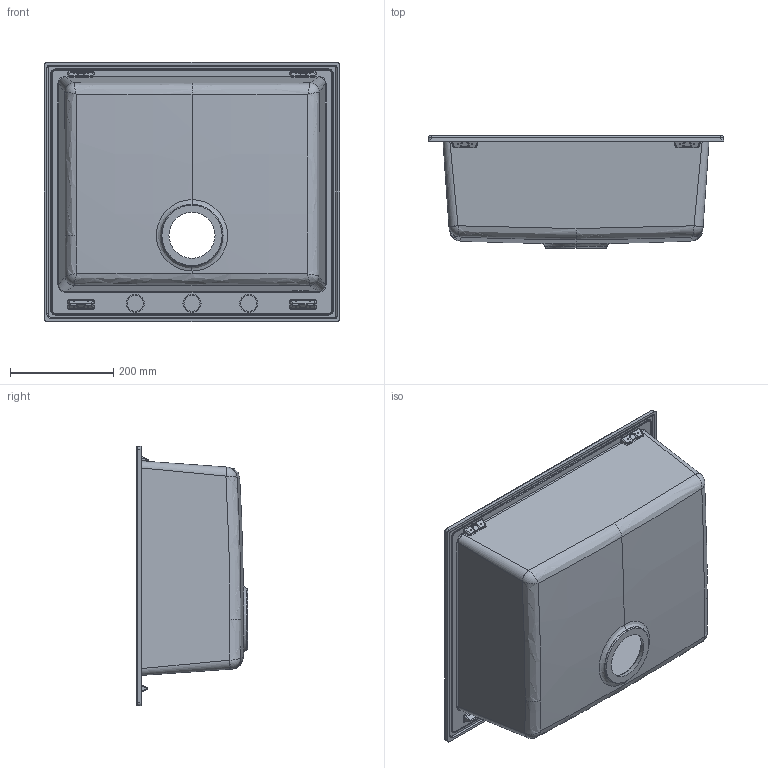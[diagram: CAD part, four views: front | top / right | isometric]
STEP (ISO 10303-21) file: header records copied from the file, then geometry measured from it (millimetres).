
FILE_DESCRIPTION (( 'STEP AP203' ), '1' );
FILE_NAME ('Quadra105.STEP', '2018-11-14T15:53:47', ( '' ), ( '' ), 'SwSTEP 2.0', 'SolidWorks 2013', '' );
FILE_SCHEMA (( 'CONFIG_CONTROL_DESIGN' ));
Products named in the file (1): Quadra105
Bounding box: 571.4 x 216.53 x 501.4 mm (x, y, z)
Volume: 4775835 mm3; surface area: 1196047.3 mm2
Topology: 1 solids, 1 shells, 409 faces, 951 edges, 544 vertices
Faces by surface type: bspline 189, cylinder 156, plane 58, cone 6
Entity records: 96940 total; most frequent: CARTESIAN_POINT 88802, ORIENTED_EDGE 1862, DIRECTION 1432, EDGE_CURVE 931, AXIS2_PLACEMENT_3D 574, VERTEX_POINT 544, EDGE_LOOP 433, FACE_OUTER_BOUND 409
